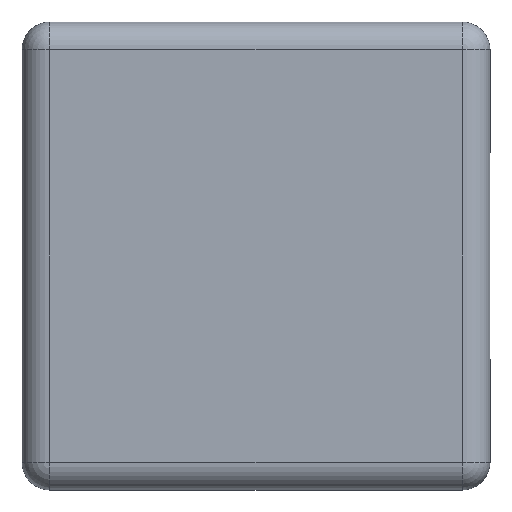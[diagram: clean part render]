
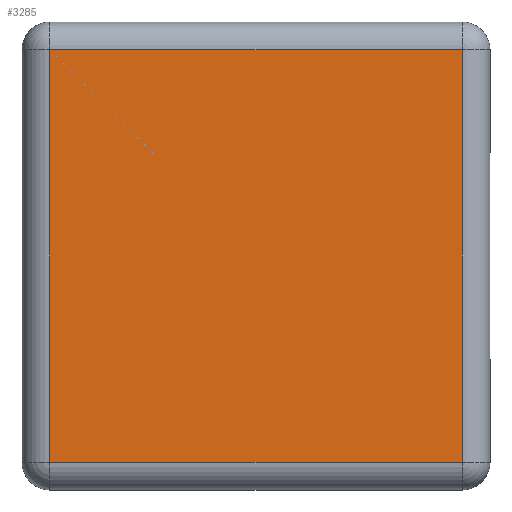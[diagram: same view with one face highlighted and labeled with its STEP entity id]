
A CAD part, front view. The second image highlights one B-rep face of the part: STEP entity #3285.
In plain terms, the highlighted planar face has unit normal (0, -1, 0).
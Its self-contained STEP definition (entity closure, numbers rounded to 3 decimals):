
#57 = EDGE_CURVE ( 'NONE', #3883, #3682, #2399, .T. ) ;
#170 = ORIENTED_EDGE ( 'NONE', *, *, #2539, .T. ) ;
#178 = EDGE_LOOP ( 'NONE', ( #3715, #1301, #170, #1516 ) ) ;
#200 = CARTESIAN_POINT ( 'NONE',  ( 11.2, -9.8, -11.2 ) ) ;
#206 = DIRECTION ( 'NONE',  ( 0., 0., -1. ) ) ;
#321 = EDGE_CURVE ( 'NONE', #1953, #3883, #2935, .T. ) ;
#476 = VECTOR ( 'NONE', #3592, 1000. ) ;
#837 = AXIS2_PLACEMENT_3D ( 'NONE', #1427, #2068, #3899 ) ;
#882 = LINE ( 'NONE', #1813, #1285 ) ;
#1142 = FACE_OUTER_BOUND ( 'NONE', #178, .T. ) ;
#1285 = VECTOR ( 'NONE', #1529, 1000. ) ;
#1301 = ORIENTED_EDGE ( 'NONE', *, *, #57, .T. ) ;
#1420 = CARTESIAN_POINT ( 'NONE',  ( -11.2, -9.8, -11.2 ) ) ;
#1427 = CARTESIAN_POINT ( 'NONE',  ( -11.2, -9.8, -11.2 ) ) ;
#1516 = ORIENTED_EDGE ( 'NONE', *, *, #3497, .T. ) ;
#1529 = DIRECTION ( 'NONE',  ( 0., 0., 1. ) ) ;
#1538 = CARTESIAN_POINT ( 'NONE',  ( -11.2, -9.8, 11.2 ) ) ;
#1615 = CARTESIAN_POINT ( 'NONE',  ( 11.2, -9.8, -11.2 ) ) ;
#1813 = CARTESIAN_POINT ( 'NONE',  ( 11.2, -9.8, 11.2 ) ) ;
#1953 = VERTEX_POINT ( 'NONE', #3383 ) ;
#2068 = DIRECTION ( 'NONE',  ( 0., 1., 0. ) ) ;
#2399 = LINE ( 'NONE', #3671, #3823 ) ;
#2539 = EDGE_CURVE ( 'NONE', #3682, #2596, #2988, .T. ) ;
#2596 = VERTEX_POINT ( 'NONE', #1615 ) ;
#2935 = LINE ( 'NONE', #3922, #476 ) ;
#2988 = LINE ( 'NONE', #200, #3203 ) ;
#3203 = VECTOR ( 'NONE', #3933, 1000. ) ;
#3285 = ADVANCED_FACE ( 'NONE', ( #1142 ), #3858, .F. ) ;
#3383 = CARTESIAN_POINT ( 'NONE',  ( 11.2, -9.8, 11.2 ) ) ;
#3497 = EDGE_CURVE ( 'NONE', #2596, #1953, #882, .T. ) ;
#3592 = DIRECTION ( 'NONE',  ( -1., 0., 0. ) ) ;
#3671 = CARTESIAN_POINT ( 'NONE',  ( -11.2, -9.8, -11.2 ) ) ;
#3682 = VERTEX_POINT ( 'NONE', #1420 ) ;
#3715 = ORIENTED_EDGE ( 'NONE', *, *, #321, .T. ) ;
#3823 = VECTOR ( 'NONE', #206, 1000. ) ;
#3858 = PLANE ( 'NONE',  #837 ) ;
#3883 = VERTEX_POINT ( 'NONE', #1538 ) ;
#3899 = DIRECTION ( 'NONE',  ( 0., 0., 1. ) ) ;
#3922 = CARTESIAN_POINT ( 'NONE',  ( -11.2, -9.8, 11.2 ) ) ;
#3933 = DIRECTION ( 'NONE',  ( 1., 0., 0. ) ) ;
